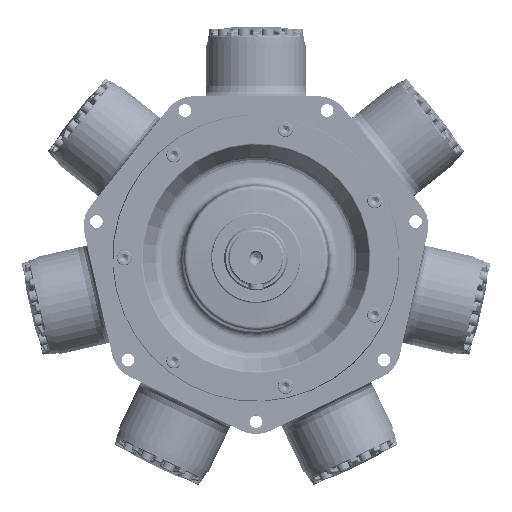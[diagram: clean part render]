
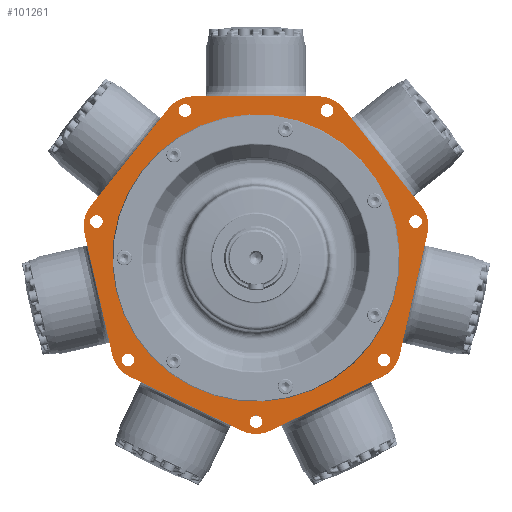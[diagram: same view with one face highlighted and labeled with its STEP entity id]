
A CAD part, top view. The second image highlights one B-rep face of the part: STEP entity #101261.
In plain terms, the highlighted planar face has unit normal (0, 0, 1).
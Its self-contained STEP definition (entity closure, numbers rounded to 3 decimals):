
#2213=FACE_BOUND('',#30323,.T.);
#2214=FACE_BOUND('',#30324,.T.);
#2215=FACE_BOUND('',#30325,.T.);
#2216=FACE_BOUND('',#30326,.T.);
#2217=FACE_BOUND('',#30327,.T.);
#2218=FACE_BOUND('',#30328,.T.);
#2219=FACE_BOUND('',#30329,.T.);
#2220=FACE_BOUND('',#30330,.T.);
#3841=PLANE('',#109203);
#9274=LINE('',#267619,#13773);
#9474=LINE('',#271115,#13973);
#9527=LINE('',#272601,#14026);
#9545=LINE('',#273430,#14044);
#9556=LINE('',#273454,#14055);
#9566=LINE('',#273514,#14065);
#9575=LINE('',#273549,#14074);
#13773=VECTOR('',#128245,10.);
#13973=VECTOR('',#128903,10.);
#14026=VECTOR('',#129198,10.);
#14044=VECTOR('',#129316,10.);
#14055=VECTOR('',#129335,10.);
#14065=VECTOR('',#129379,10.);
#14074=VECTOR('',#129400,10.);
#16302=CIRCLE('',#105635,228.555);
#17869=CIRCLE('',#109067,50.8);
#17884=CIRCLE('',#109089,10.);
#17886=CIRCLE('',#109092,10.);
#17888=CIRCLE('',#109095,10.);
#17890=CIRCLE('',#109098,10.);
#17892=CIRCLE('',#109101,10.);
#17894=CIRCLE('',#109104,10.);
#17896=CIRCLE('',#109107,10.);
#17901=CIRCLE('',#109117,50.8);
#17905=CIRCLE('',#109126,50.8);
#17909=CIRCLE('',#109134,50.8);
#17913=CIRCLE('',#109144,50.8);
#17920=CIRCLE('',#109160,50.8);
#17924=CIRCLE('',#109168,50.8);
#23970=FACE_OUTER_BOUND('',#30322,.T.);
#30322=EDGE_LOOP('',(#86763,#86764,#86765,#86766,#86767,#86768,#86769,#86770,
#86771,#86772,#86773,#86774,#86775,#86776));
#30323=EDGE_LOOP('',(#86777));
#30324=EDGE_LOOP('',(#86778));
#30325=EDGE_LOOP('',(#86779));
#30326=EDGE_LOOP('',(#86780));
#30327=EDGE_LOOP('',(#86781));
#30328=EDGE_LOOP('',(#86782));
#30329=EDGE_LOOP('',(#86783));
#30330=EDGE_LOOP('',(#86784));
#39901=VERTEX_POINT('',#208850);
#43402=VERTEX_POINT('',#267616);
#43403=VERTEX_POINT('',#267618);
#43682=VERTEX_POINT('',#271112);
#43683=VERTEX_POINT('',#271114);
#43770=VERTEX_POINT('',#272598);
#43771=VERTEX_POINT('',#272600);
#43776=VERTEX_POINT('',#272613);
#43791=VERTEX_POINT('',#273362);
#43793=VERTEX_POINT('',#273368);
#43795=VERTEX_POINT('',#273374);
#43797=VERTEX_POINT('',#273380);
#43799=VERTEX_POINT('',#273386);
#43801=VERTEX_POINT('',#273392);
#43803=VERTEX_POINT('',#273398);
#43809=VERTEX_POINT('',#273429);
#43813=VERTEX_POINT('',#273440);
#43818=VERTEX_POINT('',#273453);
#43822=VERTEX_POINT('',#273500);
#43827=VERTEX_POINT('',#273513);
#43834=VERTEX_POINT('',#273546);
#43835=VERTEX_POINT('',#273548);
#51583=EDGE_CURVE('',#39901,#39901,#16302,.T.);
#57405=EDGE_CURVE('',#43402,#43403,#9274,.T.);
#57846=EDGE_CURVE('',#43682,#43683,#9474,.T.);
#58015=EDGE_CURVE('',#43770,#43771,#9527,.T.);
#58022=EDGE_CURVE('',#43683,#43776,#17869,.T.);
#58059=EDGE_CURVE('',#43791,#43791,#17884,.T.);
#58062=EDGE_CURVE('',#43793,#43793,#17886,.T.);
#58065=EDGE_CURVE('',#43795,#43795,#17888,.T.);
#58068=EDGE_CURVE('',#43797,#43797,#17890,.T.);
#58071=EDGE_CURVE('',#43799,#43799,#17892,.T.);
#58074=EDGE_CURVE('',#43801,#43801,#17894,.T.);
#58077=EDGE_CURVE('',#43803,#43803,#17896,.T.);
#58087=EDGE_CURVE('',#43776,#43809,#9545,.T.);
#58093=EDGE_CURVE('',#43809,#43813,#17901,.T.);
#58100=EDGE_CURVE('',#43813,#43818,#9556,.T.);
#58107=EDGE_CURVE('',#43403,#43682,#17905,.T.);
#58113=EDGE_CURVE('',#43771,#43822,#17909,.T.);
#58120=EDGE_CURVE('',#43822,#43827,#9566,.T.);
#58132=EDGE_CURVE('',#43834,#43835,#9575,.T.);
#58135=EDGE_CURVE('',#43827,#43834,#17913,.T.);
#58149=EDGE_CURVE('',#43818,#43770,#17920,.T.);
#58155=EDGE_CURVE('',#43835,#43402,#17924,.T.);
#86763=ORIENTED_EDGE('',*,*,#58120,.F.);
#86764=ORIENTED_EDGE('',*,*,#58113,.F.);
#86765=ORIENTED_EDGE('',*,*,#58015,.F.);
#86766=ORIENTED_EDGE('',*,*,#58149,.F.);
#86767=ORIENTED_EDGE('',*,*,#58100,.F.);
#86768=ORIENTED_EDGE('',*,*,#58093,.F.);
#86769=ORIENTED_EDGE('',*,*,#58087,.F.);
#86770=ORIENTED_EDGE('',*,*,#58022,.F.);
#86771=ORIENTED_EDGE('',*,*,#57846,.F.);
#86772=ORIENTED_EDGE('',*,*,#58107,.F.);
#86773=ORIENTED_EDGE('',*,*,#57405,.F.);
#86774=ORIENTED_EDGE('',*,*,#58155,.F.);
#86775=ORIENTED_EDGE('',*,*,#58132,.F.);
#86776=ORIENTED_EDGE('',*,*,#58135,.F.);
#86777=ORIENTED_EDGE('',*,*,#58059,.T.);
#86778=ORIENTED_EDGE('',*,*,#58062,.T.);
#86779=ORIENTED_EDGE('',*,*,#58065,.T.);
#86780=ORIENTED_EDGE('',*,*,#58068,.T.);
#86781=ORIENTED_EDGE('',*,*,#58071,.T.);
#86782=ORIENTED_EDGE('',*,*,#58074,.T.);
#86783=ORIENTED_EDGE('',*,*,#58077,.T.);
#86784=ORIENTED_EDGE('',*,*,#51583,.F.);
#101261=ADVANCED_FACE('',(#23970,#2213,#2214,#2215,#2216,#2217,#2218,#2219,
#2220),#3841,.F.);
#105635=AXIS2_PLACEMENT_3D('',#208851,#120342,#120343);
#109067=AXIS2_PLACEMENT_3D('',#272614,#129208,#129209);
#109089=AXIS2_PLACEMENT_3D('',#273363,#129253,#129254);
#109092=AXIS2_PLACEMENT_3D('',#273369,#129260,#129261);
#109095=AXIS2_PLACEMENT_3D('',#273375,#129267,#129268);
#109098=AXIS2_PLACEMENT_3D('',#273381,#129274,#129275);
#109101=AXIS2_PLACEMENT_3D('',#273387,#129281,#129282);
#109104=AXIS2_PLACEMENT_3D('',#273393,#129288,#129289);
#109107=AXIS2_PLACEMENT_3D('',#273399,#129295,#129296);
#109117=AXIS2_PLACEMENT_3D('',#273441,#129325,#129326);
#109126=AXIS2_PLACEMENT_3D('',#273477,#129352,#129353);
#109134=AXIS2_PLACEMENT_3D('',#273501,#129369,#129370);
#109144=AXIS2_PLACEMENT_3D('',#273553,#129406,#129407);
#109160=AXIS2_PLACEMENT_3D('',#273615,#129442,#129443);
#109168=AXIS2_PLACEMENT_3D('',#273637,#129459,#129460);
#109203=AXIS2_PLACEMENT_3D('',#273678,#129532,#129533);
#120342=DIRECTION('center_axis',(0.,0.,
1.));
#120343=DIRECTION('ref_axis',(0.223,-0.975,0.));
#128245=DIRECTION('',(0.623,-0.782,0.));
#128903=DIRECTION('',(-0.223,-0.975,0.));
#129198=DIRECTION('',(-0.223,0.975,0.));
#129208=DIRECTION('center_axis',(0.,0.,-1.));
#129209=DIRECTION('ref_axis',(0.975,-0.223,0.));
#129253=DIRECTION('center_axis',(0.,0.,-1.));
#129254=DIRECTION('ref_axis',(1.,0.,0.));
#129260=DIRECTION('center_axis',(0.,0.,-1.));
#129261=DIRECTION('ref_axis',(1.,0.,0.));
#129267=DIRECTION('center_axis',(0.,0.,-1.));
#129268=DIRECTION('ref_axis',(1.,0.,0.));
#129274=DIRECTION('center_axis',(0.,0.,-1.));
#129275=DIRECTION('ref_axis',(1.,0.,0.));
#129281=DIRECTION('center_axis',(0.,0.,-1.));
#129282=DIRECTION('ref_axis',(1.,0.,0.));
#129288=DIRECTION('center_axis',(0.,0.,-1.));
#129289=DIRECTION('ref_axis',(1.,0.,0.));
#129295=DIRECTION('center_axis',(0.,0.,-1.));
#129296=DIRECTION('ref_axis',(1.,0.,0.));
#129316=DIRECTION('',(-0.901,-0.434,0.));
#129325=DIRECTION('center_axis',(0.,0.,-1.));
#129326=DIRECTION('ref_axis',(0.434,-0.901,0.));
#129335=DIRECTION('',(-0.901,0.434,0.));
#129352=DIRECTION('center_axis',(0.,0.,-1.));
#129353=DIRECTION('ref_axis',(0.782,0.623,0.));
#129369=DIRECTION('center_axis',(0.,0.,-1.));
#129370=DIRECTION('ref_axis',(-0.975,-0.223,0.));
#129379=DIRECTION('',(0.623,0.782,0.));
#129400=DIRECTION('',(1.,0.,0.));
#129406=DIRECTION('center_axis',(0.,0.,-1.));
#129407=DIRECTION('ref_axis',(-0.782,0.623,0.));
#129442=DIRECTION('center_axis',(0.,0.,-1.));
#129443=DIRECTION('ref_axis',(-0.434,-0.901,0.));
#129459=DIRECTION('center_axis',(0.,0.,-1.));
#129460=DIRECTION('ref_axis',(0.,1.,0.));
#129532=DIRECTION('center_axis',(0.,0.,-1.));
#129533=DIRECTION('ref_axis',(-1.,0.,0.));
#208850=CARTESIAN_POINT('',(222.825,50.858,-6.59));
#208851=CARTESIAN_POINT('Origin',(0.,0.,
-6.59));
#267616=CARTESIAN_POINT('',(139.102,238.048,-6.59));
#267618=CARTESIAN_POINT('',(263.033,82.644,-6.59));
#267619=CARTESIAN_POINT('',(124.931,255.818,-6.59));
#271112=CARTESIAN_POINT('',(272.842,39.666,-6.59));
#271114=CARTESIAN_POINT('',(228.612,-154.12,-6.59));
#271115=CARTESIAN_POINT('',(287.342,103.193,-6.59));
#272598=CARTESIAN_POINT('',(-228.612,-154.12,-6.59));
#272600=CARTESIAN_POINT('',(-272.842,39.666,-6.59));
#272601=CARTESIAN_POINT('',(-309.457,200.086,-6.59));
#272613=CARTESIAN_POINT('',(201.127,-188.585,-6.59));
#272614=CARTESIAN_POINT('Origin',(179.086,-142.816,-6.59));
#273362=CARTESIAN_POINT('',(-10.,-260.35,-6.59));
#273363=CARTESIAN_POINT('Origin',(0.,-260.35,-6.59));
#273368=CARTESIAN_POINT('',(243.822,57.933,-6.59));
#273369=CARTESIAN_POINT('Origin',(253.822,57.933,-6.59));
#273374=CARTESIAN_POINT('',(-263.822,57.933,-6.59));
#273375=CARTESIAN_POINT('Origin',(-253.822,57.933,-6.59));
#273380=CARTESIAN_POINT('',(193.55,-162.326,-6.59));
#273381=CARTESIAN_POINT('Origin',(203.55,-162.326,-6.59));
#273386=CARTESIAN_POINT('',(102.962,234.567,-6.59));
#273387=CARTESIAN_POINT('Origin',(112.962,234.567,-6.59));
#273392=CARTESIAN_POINT('',(-122.962,234.567,-6.59));
#273393=CARTESIAN_POINT('Origin',(-112.962,234.567,-6.59));
#273398=CARTESIAN_POINT('',(-213.55,-162.326,-6.59));
#273399=CARTESIAN_POINT('Origin',(-203.55,-162.326,-6.59));
#273429=CARTESIAN_POINT('',(22.041,-274.828,-6.59));
#273430=CARTESIAN_POINT('',(152.715,-211.899,-6.59));
#273440=CARTESIAN_POINT('',(-22.041,-274.828,-6.59));
#273441=CARTESIAN_POINT('Origin',(0.,-229.059,
-6.59));
#273453=CARTESIAN_POINT('',(-201.127,-188.585,-6.59));
#273454=CARTESIAN_POINT('',(-242.258,-168.777,-6.59));
#273477=CARTESIAN_POINT('Origin',(223.316,50.97,-6.59));
#273500=CARTESIAN_POINT('',(-263.033,82.644,-6.59));
#273501=CARTESIAN_POINT('Origin',(-223.316,50.97,-6.59));
#273513=CARTESIAN_POINT('',(-139.102,238.048,-6.59));
#273514=CARTESIAN_POINT('',(-62.966,333.52,-6.59));
#273546=CARTESIAN_POINT('',(-99.385,257.175,-6.59));
#273548=CARTESIAN_POINT('',(99.385,257.175,-6.59));
#273549=CARTESIAN_POINT('',(49.692,257.175,-6.59));
#273553=CARTESIAN_POINT('Origin',(-99.385,206.375,-6.59));
#273615=CARTESIAN_POINT('Origin',(-179.086,-142.816,-6.59));
#273637=CARTESIAN_POINT('Origin',(99.385,206.375,-6.59));
#273678=CARTESIAN_POINT('Origin',(0.,439.494,-6.59));
